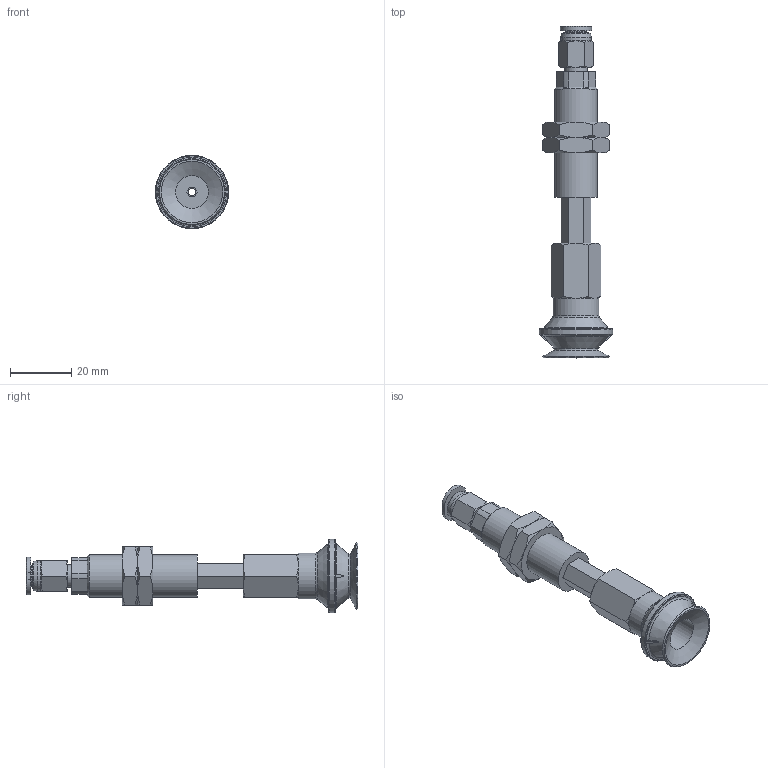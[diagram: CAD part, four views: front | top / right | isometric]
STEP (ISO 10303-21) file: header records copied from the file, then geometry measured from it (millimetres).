
FILE_DESCRIPTION(('STEP AP203'),'1');
FILE_NAME('-O.stp','2025-08-27T00:59:08',(' '),(' '),'Spatial InterOp 3D',' ',' ');
FILE_SCHEMA(('CONFIG_CONTROL_DESIGN'));
Length unit declared in the file: millimetre
Products named in the file (8): BNABPBTH-20-15-※-O; ADAPTER; NAPBTH-20-15-MBODY; Adapter20-T-NAPB; Nut-20-S-PB; NAPBTH-20-15-FBODY; BPBG-20-※; PC-C_06-M5
Assembly tree (8 placements, depth 2):
  BNABPBTH-20-15-※-O
    ADAPTER
    NAPBTH-20-15-MBODY
    Adapter20-T-NAPB
    Nut-20-S-PB  x2
    NAPBTH-20-15-FBODY
    BPBG-20-※
    PC-C_06-M5
Bounding box: 24 x 108.48 x 24 mm (x, y, z)
Volume: 14813.2 mm3; surface area: 12469.4 mm2
Topology: 7 solids, 10 shells, 200 faces, 434 edges, 266 vertices
Faces by surface type: plane 86, cone 67, cylinder 29, torus 11, bspline 4, revolution 3
Full cylindrical faces by diameter (mm): 2.5 x1, 3 x2, 4 x2, 4.134 x2, 4.6 x1, 5 x2, 7 x1, 7.4 x1, 8.2 x1, 10 x1, 10.8 x1, 11 x1, 12.917 x2, 14 x1, 15 x1, 24 x1
Entity records: 5374 total; most frequent: CARTESIAN_POINT 1427, DIRECTION 741, ORIENTED_EDGE 654, EDGE_CURVE 329, AXIS2_PLACEMENT_3D 309, EDGE_LOOP 250, VERTEX_POINT 227, FACE_OUTER_BOUND 146
